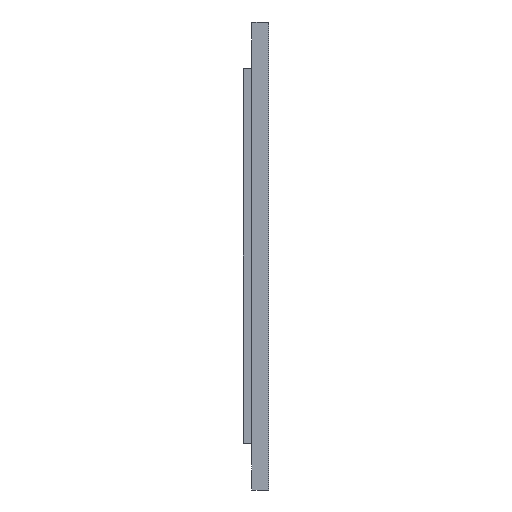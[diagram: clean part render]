
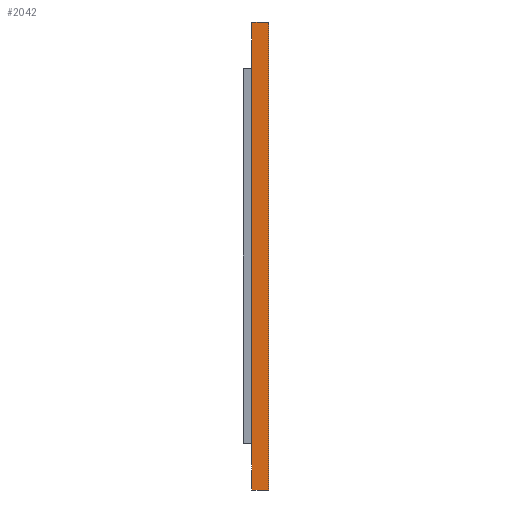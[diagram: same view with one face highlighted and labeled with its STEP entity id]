
A CAD part, left-side view. The second image highlights one B-rep face of the part: STEP entity #2042.
In plain terms, the highlighted planar face has unit normal (-1, 0, 0).
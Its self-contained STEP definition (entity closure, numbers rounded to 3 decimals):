
#43 = VECTOR ( 'NONE', #2608, 1000. ) ;
#121 = DIRECTION ( 'NONE',  ( 0., 0., 1. ) ) ;
#152 = LINE ( 'NONE', #1997, #43 ) ;
#326 = ORIENTED_EDGE ( 'NONE', *, *, #1461, .F. ) ;
#341 = VERTEX_POINT ( 'NONE', #1976 ) ;
#366 = DIRECTION ( 'NONE',  ( 0., 0., -1. ) ) ;
#387 = FACE_OUTER_BOUND ( 'NONE', #1051, .T. ) ;
#436 = ORIENTED_EDGE ( 'NONE', *, *, #2992, .T. ) ;
#490 = LINE ( 'NONE', #2587, #1856 ) ;
#654 = VERTEX_POINT ( 'NONE', #3784 ) ;
#1051 = EDGE_LOOP ( 'NONE', ( #3352, #3746, #326, #436 ) ) ;
#1066 = VERTEX_POINT ( 'NONE', #1588 ) ;
#1092 = CARTESIAN_POINT ( 'NONE',  ( 159.833, 261.697, 299.139 ) ) ;
#1382 = DIRECTION ( 'NONE',  ( 0., -1., 0. ) ) ;
#1443 = AXIS2_PLACEMENT_3D ( 'NONE', #3144, #1899, #366 ) ;
#1461 = EDGE_CURVE ( 'NONE', #654, #3913, #3239, .T. ) ;
#1588 = CARTESIAN_POINT ( 'NONE',  ( 159.833, 252.697, 299.139 ) ) ;
#1837 = PLANE ( 'NONE',  #1443 ) ;
#1856 = VECTOR ( 'NONE', #1382, 1000. ) ;
#1899 = DIRECTION ( 'NONE',  ( 1., 0., 0. ) ) ;
#1976 = CARTESIAN_POINT ( 'NONE',  ( 159.833, 252.697, 49.139 ) ) ;
#1997 = CARTESIAN_POINT ( 'NONE',  ( 159.833, 252.697, 299.139 ) ) ;
#2015 = DIRECTION ( 'NONE',  ( 0., -1., 0. ) ) ;
#2028 = VECTOR ( 'NONE', #121, 1000. ) ;
#2042 = ADVANCED_FACE ( 'NONE', ( #387 ), #1837, .F. ) ;
#2587 = CARTESIAN_POINT ( 'NONE',  ( 159.833, 261.697, 299.139 ) ) ;
#2608 = DIRECTION ( 'NONE',  ( 0., 0., 1. ) ) ;
#2972 = EDGE_CURVE ( 'NONE', #341, #1066, #152, .T. ) ;
#2992 = EDGE_CURVE ( 'NONE', #654, #341, #3152, .T. ) ;
#3144 = CARTESIAN_POINT ( 'NONE',  ( 159.833, 261.697, 299.139 ) ) ;
#3152 = LINE ( 'NONE', #3842, #3380 ) ;
#3239 = LINE ( 'NONE', #1092, #2028 ) ;
#3352 = ORIENTED_EDGE ( 'NONE', *, *, #2972, .T. ) ;
#3380 = VECTOR ( 'NONE', #2015, 1000. ) ;
#3432 = EDGE_CURVE ( 'NONE', #3913, #1066, #490, .T. ) ;
#3746 = ORIENTED_EDGE ( 'NONE', *, *, #3432, .F. ) ;
#3784 = CARTESIAN_POINT ( 'NONE',  ( 159.833, 261.697, 49.139 ) ) ;
#3842 = CARTESIAN_POINT ( 'NONE',  ( 159.833, 261.697, 49.139 ) ) ;
#3913 = VERTEX_POINT ( 'NONE', #3933 ) ;
#3933 = CARTESIAN_POINT ( 'NONE',  ( 159.833, 261.697, 299.139 ) ) ;
